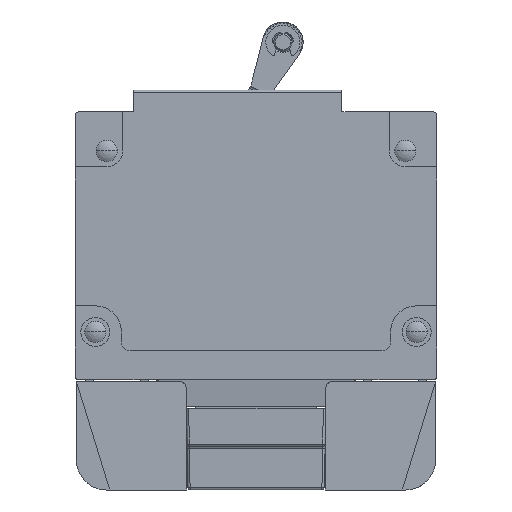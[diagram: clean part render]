
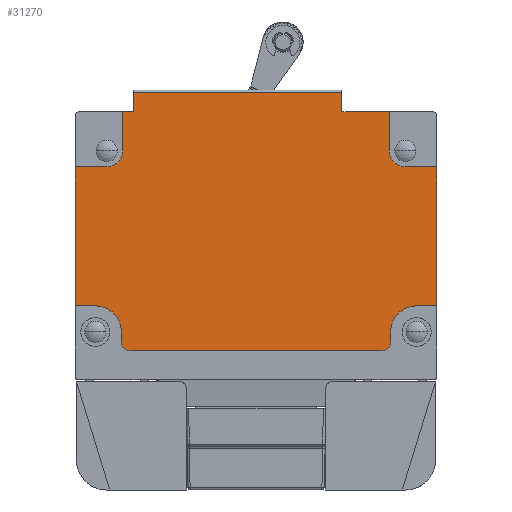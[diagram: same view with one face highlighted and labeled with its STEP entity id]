
A CAD part, left-side view. The second image highlights one B-rep face of the part: STEP entity #31270.
In plain terms, the highlighted planar face has unit normal (-1, 0, 0).
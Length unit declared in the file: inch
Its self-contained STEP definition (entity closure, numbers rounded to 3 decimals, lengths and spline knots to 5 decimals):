
#82=DIRECTION('',(0.,0.,1.));
#83=VECTOR('',#82,0.96);
#84=CARTESIAN_POINT('',(-0.75,0.,-1.07));
#85=LINE('',#84,#83);
#150=DIRECTION('',(0.,1.,0.));
#151=VECTOR('',#150,0.327);
#152=CARTESIAN_POINT('',(-0.75,0.329,0.27));
#153=LINE('',#152,#151);
#193=DIRECTION('',(0.,0.,1.));
#194=VECTOR('',#193,0.135);
#195=CARTESIAN_POINT('',(-0.75,0.656,0.27));
#196=LINE('',#195,#194);
#250=DIRECTION('',(0.,1.,0.));
#251=VECTOR('',#250,0.077);
#252=CARTESIAN_POINT('',(-0.75,2.094,0.27));
#253=LINE('',#252,#251);
#358=DIRECTION('',(0.,0.,1.));
#359=VECTOR('',#358,0.96);
#360=CARTESIAN_POINT('',(-0.75,2.5,-1.07));
#361=LINE('',#360,#359);
#4654=DIRECTION('',(0.,-1.,0.));
#4655=VECTOR('',#4654,1.438);
#4656=CARTESIAN_POINT('',(-0.75,2.094,0.405));
#4657=LINE('',#4656,#4655);
#4658=DIRECTION('',(0.,0.,-1.));
#4659=VECTOR('',#4658,0.27);
#4660=CARTESIAN_POINT('',(-0.75,0.329,0.27));
#4661=LINE('',#4660,#4659);
#4662=CARTESIAN_POINT('',(-0.75,0.219,0.));
#4663=DIRECTION('',(1.,0.,0.));
#4664=DIRECTION('',(0.,0.,-1.));
#4665=AXIS2_PLACEMENT_3D('',#4662,#4663,#4664);
#4667=DIRECTION('',(0.,1.,0.));
#4668=VECTOR('',#4667,0.219);
#4669=CARTESIAN_POINT('',(-0.75,0.,-0.11));
#4670=LINE('',#4669,#4668);
#4671=DIRECTION('',(0.,1.,0.));
#4672=VECTOR('',#4671,0.14);
#4673=CARTESIAN_POINT('',(-0.75,0.,-1.07));
#4674=LINE('',#4673,#4672);
#4675=CARTESIAN_POINT('',(-0.75,0.14,-1.25));
#4676=DIRECTION('',(1.,0.,0.));
#4677=DIRECTION('',(0.,1.,0.));
#4678=AXIS2_PLACEMENT_3D('',#4675,#4676,#4677);
#4680=DIRECTION('',(0.,0.,1.));
#4681=VECTOR('',#4680,0.068);
#4682=CARTESIAN_POINT('',(-0.75,0.32,-1.318));
#4683=LINE('',#4682,#4681);
#4684=CARTESIAN_POINT('',(-0.75,0.382,-1.318));
#4685=DIRECTION('',(1.,0.,0.));
#4686=DIRECTION('',(0.,-1.,0.));
#4687=AXIS2_PLACEMENT_3D('',#4684,#4685,#4686);
#4689=DIRECTION('',(0.,-1.,0.));
#4690=VECTOR('',#4689,1.736);
#4691=CARTESIAN_POINT('',(-0.75,2.118,-1.38));
#4692=LINE('',#4691,#4690);
#4693=CARTESIAN_POINT('',(-0.75,2.118,-1.318));
#4694=DIRECTION('',(1.,0.,0.));
#4695=DIRECTION('',(0.,0.,-1.));
#4696=AXIS2_PLACEMENT_3D('',#4693,#4694,#4695);
#4698=DIRECTION('',(0.,0.,-1.));
#4699=VECTOR('',#4698,0.068);
#4700=CARTESIAN_POINT('',(-0.75,2.18,-1.25));
#4701=LINE('',#4700,#4699);
#4702=CARTESIAN_POINT('',(-0.75,2.36,-1.25));
#4703=DIRECTION('',(1.,0.,0.));
#4704=DIRECTION('',(0.,0.,1.));
#4705=AXIS2_PLACEMENT_3D('',#4702,#4703,#4704);
#4707=DIRECTION('',(0.,-1.,0.));
#4708=VECTOR('',#4707,0.14);
#4709=CARTESIAN_POINT('',(-0.75,2.5,-1.07));
#4710=LINE('',#4709,#4708);
#4711=DIRECTION('',(0.,-1.,0.));
#4712=VECTOR('',#4711,0.219);
#4713=CARTESIAN_POINT('',(-0.75,2.5,-0.11));
#4714=LINE('',#4713,#4712);
#4715=CARTESIAN_POINT('',(-0.75,2.281,0.));
#4716=DIRECTION('',(1.,0.,0.));
#4717=DIRECTION('',(0.,-1.,0.));
#4718=AXIS2_PLACEMENT_3D('',#4715,#4716,#4717);
#4720=DIRECTION('',(0.,0.,-1.));
#4721=VECTOR('',#4720,0.27);
#4722=CARTESIAN_POINT('',(-0.75,2.171,0.27));
#4723=LINE('',#4722,#4721);
#4724=DIRECTION('',(0.,0.,1.));
#4725=VECTOR('',#4724,0.135);
#4726=CARTESIAN_POINT('',(-0.75,2.094,0.27));
#4727=LINE('',#4726,#4725);
#18998=CARTESIAN_POINT('',(-0.75,0.14,-1.07));
#18999=VERTEX_POINT('',#18998);
#19000=CARTESIAN_POINT('',(-0.75,2.36,-1.07));
#19001=VERTEX_POINT('',#19000);
#19002=CARTESIAN_POINT('',(-0.75,2.18,-1.25));
#19003=VERTEX_POINT('',#19002);
#19004=CARTESIAN_POINT('',(-0.75,2.18,-1.318));
#19005=VERTEX_POINT('',#19004);
#19006=CARTESIAN_POINT('',(-0.75,2.118,-1.38));
#19007=VERTEX_POINT('',#19006);
#19008=CARTESIAN_POINT('',(-0.75,0.382,-1.38));
#19009=VERTEX_POINT('',#19008);
#19010=CARTESIAN_POINT('',(-0.75,0.32,-1.318));
#19011=VERTEX_POINT('',#19010);
#19012=CARTESIAN_POINT('',(-0.75,0.32,-1.25));
#19013=VERTEX_POINT('',#19012);
#19030=CARTESIAN_POINT('',(-0.75,2.281,-0.11));
#19031=VERTEX_POINT('',#19030);
#19032=CARTESIAN_POINT('',(-0.75,2.171,0.));
#19033=VERTEX_POINT('',#19032);
#19034=CARTESIAN_POINT('',(-0.75,0.329,0.));
#19035=VERTEX_POINT('',#19034);
#19036=CARTESIAN_POINT('',(-0.75,0.219,-0.11));
#19037=VERTEX_POINT('',#19036);
#19054=CARTESIAN_POINT('',(-0.75,0.,-1.07));
#19055=VERTEX_POINT('',#19054);
#19056=CARTESIAN_POINT('',(-0.75,2.5,-1.07));
#19057=VERTEX_POINT('',#19056);
#19058=CARTESIAN_POINT('',(-0.75,0.,-0.11));
#19059=VERTEX_POINT('',#19058);
#19060=CARTESIAN_POINT('',(-0.75,2.5,-0.11));
#19061=VERTEX_POINT('',#19060);
#19062=CARTESIAN_POINT('',(-0.75,2.171,0.27));
#19063=VERTEX_POINT('',#19062);
#19064=CARTESIAN_POINT('',(-0.75,0.329,0.27));
#19065=VERTEX_POINT('',#19064);
#19500=CARTESIAN_POINT('',(-0.75,0.656,0.27));
#19501=VERTEX_POINT('',#19500);
#19502=CARTESIAN_POINT('',(-0.75,2.094,0.27));
#19503=VERTEX_POINT('',#19502);
#19553=CARTESIAN_POINT('',(-0.75,0.656,0.405));
#19555=VERTEX_POINT('',#19553);
#19556=CARTESIAN_POINT('',(-0.75,2.094,0.405));
#19557=VERTEX_POINT('',#19556);
#31226=CARTESIAN_POINT('',(-0.75,0.,-1.58));
#31227=DIRECTION('',(-1.,0.,0.));
#31228=DIRECTION('',(0.,0.,1.));
#31229=AXIS2_PLACEMENT_3D('',#31226,#31227,#31228);
#31230=PLANE('',#31229);
#31231=ORIENTED_EDGE('',*,*,#31212,.T.);
#31232=ORIENTED_EDGE('',*,*,#23746,.F.);
#31233=ORIENTED_EDGE('',*,*,#23706,.F.);
#31235=ORIENTED_EDGE('',*,*,#31234,.T.);
#31237=ORIENTED_EDGE('',*,*,#31236,.F.);
#31239=ORIENTED_EDGE('',*,*,#31238,.F.);
#31240=ORIENTED_EDGE('',*,*,#23594,.F.);
#31242=ORIENTED_EDGE('',*,*,#31241,.T.);
#31244=ORIENTED_EDGE('',*,*,#31243,.F.);
#31246=ORIENTED_EDGE('',*,*,#31245,.F.);
#31248=ORIENTED_EDGE('',*,*,#31247,.T.);
#31250=ORIENTED_EDGE('',*,*,#31249,.F.);
#31252=ORIENTED_EDGE('',*,*,#31251,.T.);
#31254=ORIENTED_EDGE('',*,*,#31253,.F.);
#31256=ORIENTED_EDGE('',*,*,#31255,.F.);
#31258=ORIENTED_EDGE('',*,*,#31257,.F.);
#31259=ORIENTED_EDGE('',*,*,#23986,.T.);
#31261=ORIENTED_EDGE('',*,*,#31260,.T.);
#31263=ORIENTED_EDGE('',*,*,#31262,.F.);
#31265=ORIENTED_EDGE('',*,*,#31264,.F.);
#31266=ORIENTED_EDGE('',*,*,#23854,.F.);
#31267=ORIENTED_EDGE('',*,*,#23824,.T.);
#31268=EDGE_LOOP('',(#31231,#31232,#31233,#31235,#31237,#31239,#31240,#31242,
#31244,#31246,#31248,#31250,#31252,#31254,#31256,#31258,#31259,#31261,#31263,
#31265,#31266,#31267));
#31269=FACE_OUTER_BOUND('',#31268,.F.);
#4666=CIRCLE('',#4665,0.11);
#4679=CIRCLE('',#4678,0.18);
#4688=CIRCLE('',#4687,0.062);
#4697=CIRCLE('',#4696,0.062);
#4706=CIRCLE('',#4705,0.18);
#4719=CIRCLE('',#4718,0.11);
#23594=EDGE_CURVE('',#19055,#19059,#85,.T.);
#23706=EDGE_CURVE('',#19065,#19501,#153,.T.);
#23746=EDGE_CURVE('',#19501,#19555,#196,.T.);
#23824=EDGE_CURVE('',#19503,#19557,#4727,.T.);
#23854=EDGE_CURVE('',#19503,#19063,#253,.T.);
#23986=EDGE_CURVE('',#19057,#19061,#361,.T.);
#31212=EDGE_CURVE('',#19557,#19555,#4657,.T.);
#31234=EDGE_CURVE('',#19065,#19035,#4661,.T.);
#31236=EDGE_CURVE('',#19037,#19035,#4666,.T.);
#31238=EDGE_CURVE('',#19059,#19037,#4670,.T.);
#31241=EDGE_CURVE('',#19055,#18999,#4674,.T.);
#31243=EDGE_CURVE('',#19013,#18999,#4679,.T.);
#31245=EDGE_CURVE('',#19011,#19013,#4683,.T.);
#31247=EDGE_CURVE('',#19011,#19009,#4688,.T.);
#31249=EDGE_CURVE('',#19007,#19009,#4692,.T.);
#31251=EDGE_CURVE('',#19007,#19005,#4697,.T.);
#31253=EDGE_CURVE('',#19003,#19005,#4701,.T.);
#31255=EDGE_CURVE('',#19001,#19003,#4706,.T.);
#31257=EDGE_CURVE('',#19057,#19001,#4710,.T.);
#31260=EDGE_CURVE('',#19061,#19031,#4714,.T.);
#31262=EDGE_CURVE('',#19033,#19031,#4719,.T.);
#31264=EDGE_CURVE('',#19063,#19033,#4723,.T.);
#31270=ADVANCED_FACE('',(#31269),#31230,.T.);
